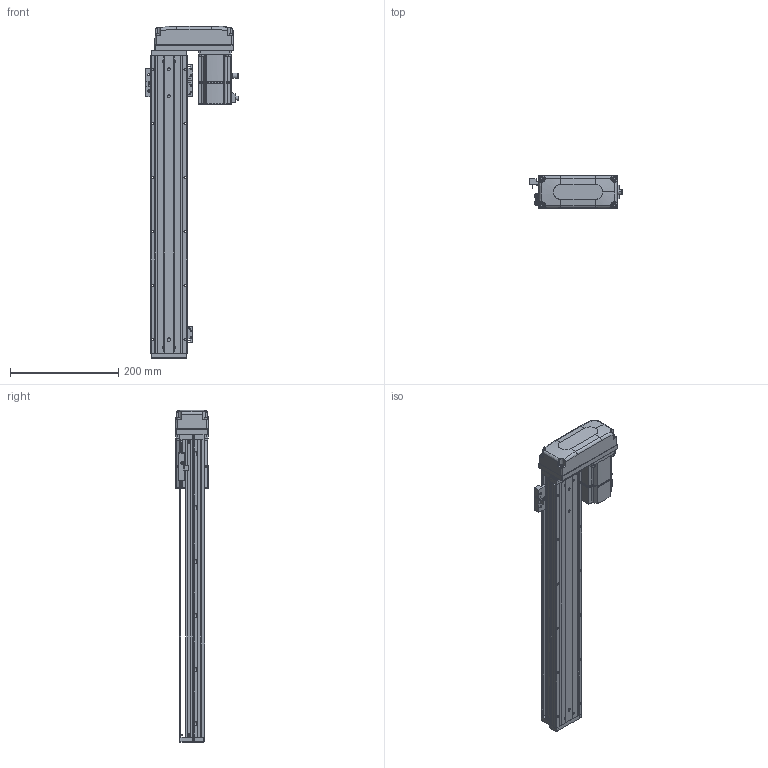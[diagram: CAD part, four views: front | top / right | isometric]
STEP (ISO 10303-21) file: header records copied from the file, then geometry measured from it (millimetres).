
FILE_DESCRIPTION (( 'STEP AP203' ), '1' );
FILE_NAME ('KTHA60-450-BL-M20-C4L.step', '2022-12-16T01:32:22', ( '微软用户' ), ( '微软中国' ), 'SwSTEP 2.0', 'SolidWorks 2020', '' );
FILE_SCHEMA (( 'CONFIG_CONTROL_DESIGN' ));
Length unit declared in the file: millimetre
Products named in the file (17): GBT77-2000M3-3; KTHA60-450-BL-M20-C4L; GB¨uT 70.2-M3¡Á5_M3¡Á6; GBT 70.1-M3℅6; GBT 70.3-M3℅6; CTHA60-016; EE_SX911P_R; KTHA60-002; CTHA60-017; BTH80-026; KTHA60-001_550; CTHA60-021; CTHA60-006-2_CTHA60-006-2; KTHA60-004; GBT 70.1-M4×16; _X2_4E0983F1_X0_200W_1; KTHA60-005
Assembly tree (51 placements, depth 2):
  KTHA60-450-BL-M20-C4L
    KTHA60-001_550
    KTHA60-004
    KTHA60-005
    GB¨uT 70.2-M3¡Á5_M3¡Á6  x6
    GBT 70.3-M3℅6  x4
    EE_SX911P_R  x3
    CTHA60-017  x3
    CTHA60-021  x2
    GBT 70.1-M4×16  x8
    GBT77-2000M3-3  x6
    GBT 70.1-M3℅6  x10
    CTHA60-016  x2
    KTHA60-002
    BTH80-026
    CTHA60-006-2_CTHA60-006-2
    _X2_4E0983F1_X0_200W_1
Bounding box: 172.1 x 62.42 x 614 mm (x, y, z)
Volume: 1401564.2 mm3; surface area: 370414.4 mm2
Topology: 54 solids, 54 shells, 2428 faces, 5773 edges, 3550 vertices
Faces by surface type: plane 1285, cylinder 644, cone 282, bspline 109, torus 92, sphere 16
Entity records: 44886 total; most frequent: CARTESIAN_POINT 10482, ORIENTED_EDGE 6594, DIRECTION 6588, EDGE_CURVE 3297, AXIS2_PLACEMENT_3D 2275, VERTEX_POINT 2059, VECTOR 2038, LINE 2038
